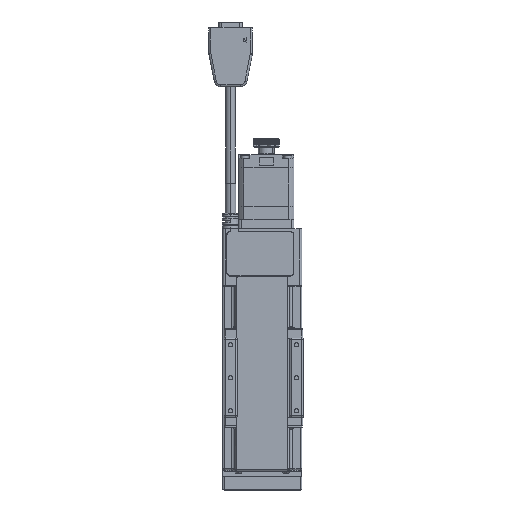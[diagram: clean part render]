
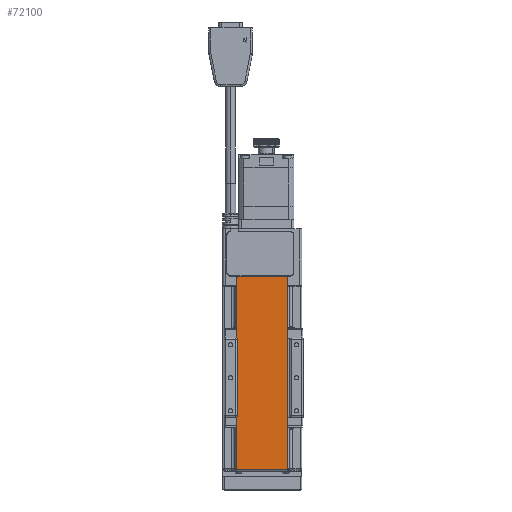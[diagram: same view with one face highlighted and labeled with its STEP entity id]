
A CAD part, top view. The second image highlights one B-rep face of the part: STEP entity #72100.
In plain terms, the highlighted planar face has unit normal (0, 0, 1).
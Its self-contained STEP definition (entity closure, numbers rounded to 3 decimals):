
#1575 = VERTEX_POINT ( 'NONE', #31340 ) ;
#2414 = ORIENTED_EDGE ( 'NONE', *, *, #76948, .T. ) ;
#7167 = VECTOR ( 'NONE', #141967, 1000. ) ;
#7312 = PLANE ( 'NONE',  #77204 ) ;
#7472 = CIRCLE ( 'NONE', #47407, 1. ) ;
#8153 = CIRCLE ( 'NONE', #89725, 1. ) ;
#10604 = ORIENTED_EDGE ( 'NONE', *, *, #96238, .T. ) ;
#13909 = DIRECTION ( 'NONE',  ( 0., 0., 1. ) ) ;
#14123 = VERTEX_POINT ( 'NONE', #107108 ) ;
#15216 = VERTEX_POINT ( 'NONE', #46959 ) ;
#16131 = FACE_OUTER_BOUND ( 'NONE', #77630, .T. ) ;
#16745 = VECTOR ( 'NONE', #111153, 1000. ) ;
#16774 = VERTEX_POINT ( 'NONE', #94982 ) ;
#17711 = EDGE_CURVE ( 'NONE', #15216, #36393, #33774, .T. ) ;
#20150 = CARTESIAN_POINT ( 'NONE',  ( -19.5, 15.737, 29.5 ) ) ;
#21590 = EDGE_CURVE ( 'NONE', #1575, #24025, #61818, .T. ) ;
#24025 = VERTEX_POINT ( 'NONE', #71903 ) ;
#30316 = LINE ( 'NONE', #108390, #7167 ) ;
#31340 = CARTESIAN_POINT ( 'NONE',  ( 18.5, 161.5, 29.5 ) ) ;
#33737 = DIRECTION ( 'NONE',  ( 0., -1., 0. ) ) ;
#33774 = LINE ( 'NONE', #111867, #16745 ) ;
#36393 = VERTEX_POINT ( 'NONE', #20150 ) ;
#36831 = VECTOR ( 'NONE', #47721, 1000. ) ;
#40126 = DIRECTION ( 'NONE',  ( 0., -1., 0. ) ) ;
#46959 = CARTESIAN_POINT ( 'NONE',  ( -19.5, 160.5, 29.5 ) ) ;
#47407 = AXIS2_PLACEMENT_3D ( 'NONE', #68044, #111833, #33737 ) ;
#47721 = DIRECTION ( 'NONE',  ( -1., 0., 0. ) ) ;
#52438 = EDGE_CURVE ( 'NONE', #16774, #36393, #102465, .T. ) ;
#59156 = CARTESIAN_POINT ( 'NONE',  ( 18.5, 160.5, 29.5 ) ) ;
#61818 = LINE ( 'NONE', #141313, #82947 ) ;
#68044 = CARTESIAN_POINT ( 'NONE',  ( -18.5, 160.5, 29.5 ) ) ;
#71903 = CARTESIAN_POINT ( 'NONE',  ( -18.5, 161.5, 29.5 ) ) ;
#72100 = ADVANCED_FACE ( 'NONE', ( #16131 ), #7312, .F. ) ;
#73873 = ORIENTED_EDGE ( 'NONE', *, *, #137006, .T. ) ;
#76948 = EDGE_CURVE ( 'NONE', #16774, #14123, #30316, .T. ) ;
#77204 = AXIS2_PLACEMENT_3D ( 'NONE', #116090, #106595, #40126 ) ;
#77630 = EDGE_LOOP ( 'NONE', ( #2414, #10604, #89127, #73873, #131686, #98600 ) ) ;
#82947 = VECTOR ( 'NONE', #142026, 1000. ) ;
#89127 = ORIENTED_EDGE ( 'NONE', *, *, #21590, .T. ) ;
#89725 = AXIS2_PLACEMENT_3D ( 'NONE', #59156, #13909, #135776 ) ;
#94982 = CARTESIAN_POINT ( 'NONE',  ( 19.5, 15.737, 29.5 ) ) ;
#96238 = EDGE_CURVE ( 'NONE', #14123, #1575, #8153, .T. ) ;
#98600 = ORIENTED_EDGE ( 'NONE', *, *, #52438, .F. ) ;
#102465 = LINE ( 'NONE', #134609, #36831 ) ;
#106595 = DIRECTION ( 'NONE',  ( 0., 0., -1. ) ) ;
#107108 = CARTESIAN_POINT ( 'NONE',  ( 19.5, 160.5, 29.5 ) ) ;
#108390 = CARTESIAN_POINT ( 'NONE',  ( 19.5, 161.5, 29.5 ) ) ;
#111153 = DIRECTION ( 'NONE',  ( 0., -1., 0. ) ) ;
#111833 = DIRECTION ( 'NONE',  ( 0., 0., 1. ) ) ;
#111867 = CARTESIAN_POINT ( 'NONE',  ( -19.5, 15., 29.5 ) ) ;
#116090 = CARTESIAN_POINT ( 'NONE',  ( 0., 14., 29.5 ) ) ;
#131686 = ORIENTED_EDGE ( 'NONE', *, *, #17711, .T. ) ;
#134609 = CARTESIAN_POINT ( 'NONE',  ( 0., 15.737, 29.5 ) ) ;
#135776 = DIRECTION ( 'NONE',  ( 0., -1., 0. ) ) ;
#137006 = EDGE_CURVE ( 'NONE', #24025, #15216, #7472, .T. ) ;
#141313 = CARTESIAN_POINT ( 'NONE',  ( -19.5, 161.5, 29.5 ) ) ;
#141967 = DIRECTION ( 'NONE',  ( 0., 1., 0. ) ) ;
#142026 = DIRECTION ( 'NONE',  ( -1., 0., 0. ) ) ;
